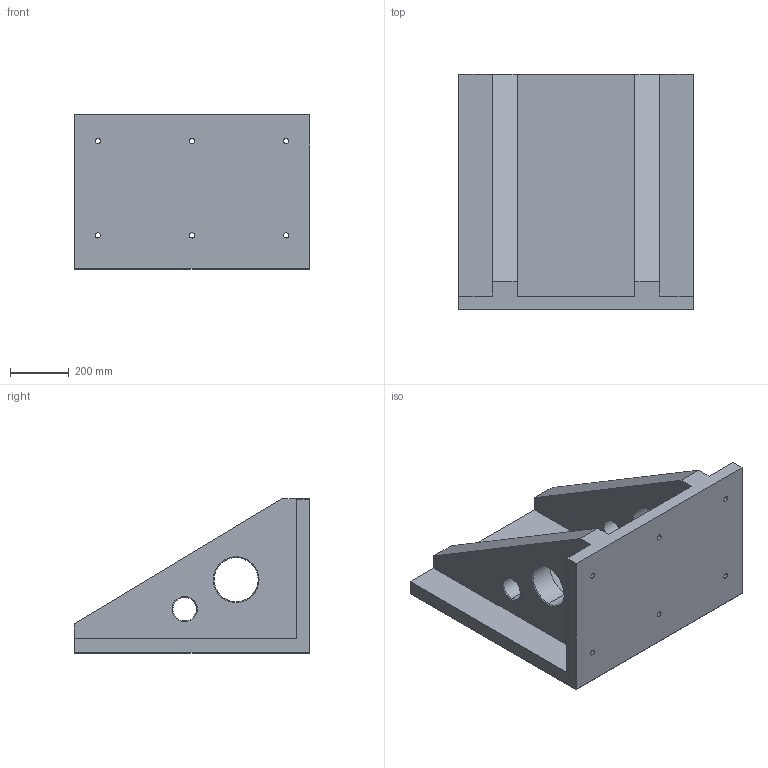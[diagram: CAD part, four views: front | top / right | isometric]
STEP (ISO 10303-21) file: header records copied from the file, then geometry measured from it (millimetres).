
FILE_DESCRIPTION((''),'2;1');
FILE_NAME('FG_WH_ANGPL_ANPLNNP004','2026-05-22T11:35:17',('Admin'),(''),'CREO PARAMETRIC BY PTC INC, 2025010','CREO PARAMETRIC BY PTC INC, 2025010','');
FILE_SCHEMA(('CONFIG_CONTROL_DESIGN'));
Length unit declared in the file: millimetre
Products named in the file (1): FG_WH_ANGPL_ANPLNNP004
Bounding box: 800 x 800 x 525 mm (x, y, z)
Volume: 80648147.7 mm3; surface area: 3062334 mm2
Topology: 1 solids, 1 shells, 77 faces, 193 edges, 124 vertices
Faces by surface type: plane 37, cylinder 32, cone 8
Entity records: 2385 total; most frequent: DIRECTION 419, CARTESIAN_POINT 394, ORIENTED_EDGE 386, EDGE_CURVE 193, AXIS2_PLACEMENT_3D 149, VERTEX_POINT 124, VECTOR 121, LINE 121
